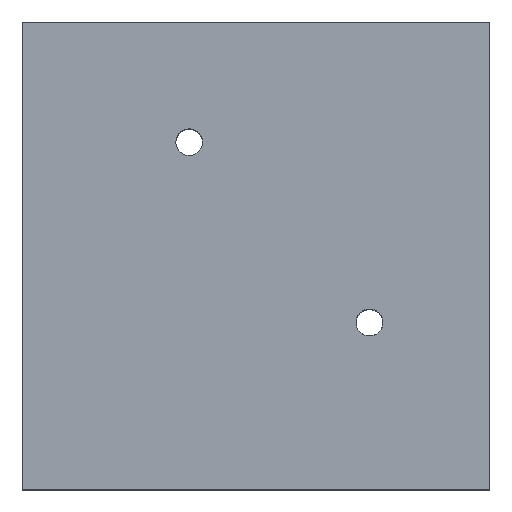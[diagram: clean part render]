
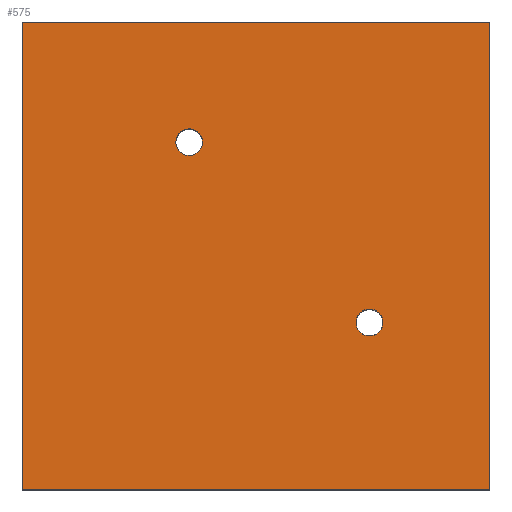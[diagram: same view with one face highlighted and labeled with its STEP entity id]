
A CAD part, top view. The second image highlights one B-rep face of the part: STEP entity #575.
In plain terms, the highlighted planar face has unit normal (0, 0, 1).
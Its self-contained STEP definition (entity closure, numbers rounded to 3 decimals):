
#11 = CIRCLE ( 'NONE', #185, 1. ) ;
#17 = LINE ( 'NONE', #1053, #722 ) ;
#25 = DIRECTION ( 'NONE',  ( 0., 1., 0. ) ) ;
#51 = EDGE_CURVE ( 'NONE', #654, #325, #17, .T. ) ;
#75 = EDGE_LOOP ( 'NONE', ( #589, #882, #491, #528 ) ) ;
#77 = VERTEX_POINT ( 'NONE', #737 ) ;
#87 = ORIENTED_EDGE ( 'NONE', *, *, #752, .F. ) ;
#99 = LINE ( 'NONE', #526, #1092 ) ;
#109 = CIRCLE ( 'NONE', #872, 1. ) ;
#114 = DIRECTION ( 'NONE',  ( 0., 0., 1. ) ) ;
#144 = CARTESIAN_POINT ( 'NONE',  ( -4., 8.5, 12.5 ) ) ;
#150 = CIRCLE ( 'NONE', #1048, 1. ) ;
#185 = AXIS2_PLACEMENT_3D ( 'NONE', #716, #316, #1126 ) ;
#213 = CARTESIAN_POINT ( 'NONE',  ( -5., 8.5, 12.5 ) ) ;
#242 = CARTESIAN_POINT ( 'NONE',  ( 7.5, -5., 12.5 ) ) ;
#247 = CARTESIAN_POINT ( 'NONE',  ( -17.5, -17.5, 12.5 ) ) ;
#254 = CIRCLE ( 'NONE', #993, 1. ) ;
#272 = EDGE_LOOP ( 'NONE', ( #87, #870 ) ) ;
#288 = ORIENTED_EDGE ( 'NONE', *, *, #595, .F. ) ;
#293 = FACE_OUTER_BOUND ( 'NONE', #75, .T. ) ;
#299 = DIRECTION ( 'NONE',  ( -1., 0., 0. ) ) ;
#307 = VERTEX_POINT ( 'NONE', #1170 ) ;
#308 = CARTESIAN_POINT ( 'NONE',  ( 17.5, 17.5, 12.5 ) ) ;
#316 = DIRECTION ( 'NONE',  ( 0., 0., 1. ) ) ;
#325 = VERTEX_POINT ( 'NONE', #1108 ) ;
#415 = CARTESIAN_POINT ( 'NONE',  ( 17.5, 17.5, 12.5 ) ) ;
#442 = DIRECTION ( 'NONE',  ( 1., 0., 0. ) ) ;
#451 = EDGE_CURVE ( 'NONE', #811, #512, #109, .T. ) ;
#452 = ORIENTED_EDGE ( 'NONE', *, *, #451, .F. ) ;
#475 = DIRECTION ( 'NONE',  ( 0., 0., 1. ) ) ;
#491 = ORIENTED_EDGE ( 'NONE', *, *, #51, .T. ) ;
#512 = VERTEX_POINT ( 'NONE', #1195 ) ;
#520 = LINE ( 'NONE', #415, #1151 ) ;
#526 = CARTESIAN_POINT ( 'NONE',  ( -17.5, 17.5, 12.5 ) ) ;
#528 = ORIENTED_EDGE ( 'NONE', *, *, #1227, .T. ) ;
#549 = DIRECTION ( 'NONE',  ( 0., 0., 1. ) ) ;
#575 = ADVANCED_FACE ( 'NONE', ( #836, #1145, #293 ), #630, .T. ) ;
#589 = ORIENTED_EDGE ( 'NONE', *, *, #1163, .T. ) ;
#595 = EDGE_CURVE ( 'NONE', #512, #811, #11, .T. ) ;
#630 = PLANE ( 'NONE',  #631 ) ;
#631 = AXIS2_PLACEMENT_3D ( 'NONE', #1044, #1139, #1052 ) ;
#648 = VERTEX_POINT ( 'NONE', #308 ) ;
#649 = EDGE_CURVE ( 'NONE', #648, #654, #99, .T. ) ;
#654 = VERTEX_POINT ( 'NONE', #1331 ) ;
#716 = CARTESIAN_POINT ( 'NONE',  ( -5., 8.5, 12.5 ) ) ;
#722 = VECTOR ( 'NONE', #1257, 1000. ) ;
#737 = CARTESIAN_POINT ( 'NONE',  ( 17.5, -17.5, 12.5 ) ) ;
#752 = EDGE_CURVE ( 'NONE', #307, #1301, #254, .T. ) ;
#811 = VERTEX_POINT ( 'NONE', #144 ) ;
#832 = EDGE_LOOP ( 'NONE', ( #452, #288 ) ) ;
#836 = FACE_BOUND ( 'NONE', #832, .T. ) ;
#841 = CARTESIAN_POINT ( 'NONE',  ( 8.5, -5., 12.5 ) ) ;
#857 = EDGE_CURVE ( 'NONE', #1301, #307, #150, .T. ) ;
#870 = ORIENTED_EDGE ( 'NONE', *, *, #857, .F. ) ;
#872 = AXIS2_PLACEMENT_3D ( 'NONE', #213, #114, #962 ) ;
#882 = ORIENTED_EDGE ( 'NONE', *, *, #649, .T. ) ;
#902 = DIRECTION ( 'NONE',  ( 1., 0., 0. ) ) ;
#962 = DIRECTION ( 'NONE',  ( 1., 0., 0. ) ) ;
#993 = AXIS2_PLACEMENT_3D ( 'NONE', #841, #549, #442 ) ;
#1009 = CARTESIAN_POINT ( 'NONE',  ( 8.5, -5., 12.5 ) ) ;
#1044 = CARTESIAN_POINT ( 'NONE',  ( 0., 0., 12.5 ) ) ;
#1048 = AXIS2_PLACEMENT_3D ( 'NONE', #1009, #475, #902 ) ;
#1052 = DIRECTION ( 'NONE',  ( 1., 0., 0. ) ) ;
#1053 = CARTESIAN_POINT ( 'NONE',  ( -17.5, 17.5, 12.5 ) ) ;
#1092 = VECTOR ( 'NONE', #299, 1000. ) ;
#1108 = CARTESIAN_POINT ( 'NONE',  ( -17.5, -17.5, 12.5 ) ) ;
#1126 = DIRECTION ( 'NONE',  ( 1., 0., 0. ) ) ;
#1139 = DIRECTION ( 'NONE',  ( 0., 0., 1. ) ) ;
#1145 = FACE_BOUND ( 'NONE', #272, .T. ) ;
#1151 = VECTOR ( 'NONE', #25, 1000. ) ;
#1163 = EDGE_CURVE ( 'NONE', #77, #648, #520, .T. ) ;
#1170 = CARTESIAN_POINT ( 'NONE',  ( 9.5, -5., 12.5 ) ) ;
#1171 = DIRECTION ( 'NONE',  ( 1., 0., 0. ) ) ;
#1178 = LINE ( 'NONE', #247, #1302 ) ;
#1195 = CARTESIAN_POINT ( 'NONE',  ( -6., 8.5, 12.5 ) ) ;
#1227 = EDGE_CURVE ( 'NONE', #325, #77, #1178, .T. ) ;
#1257 = DIRECTION ( 'NONE',  ( 0., -1., 0. ) ) ;
#1301 = VERTEX_POINT ( 'NONE', #242 ) ;
#1302 = VECTOR ( 'NONE', #1171, 1000. ) ;
#1331 = CARTESIAN_POINT ( 'NONE',  ( -17.5, 17.5, 12.5 ) ) ;
